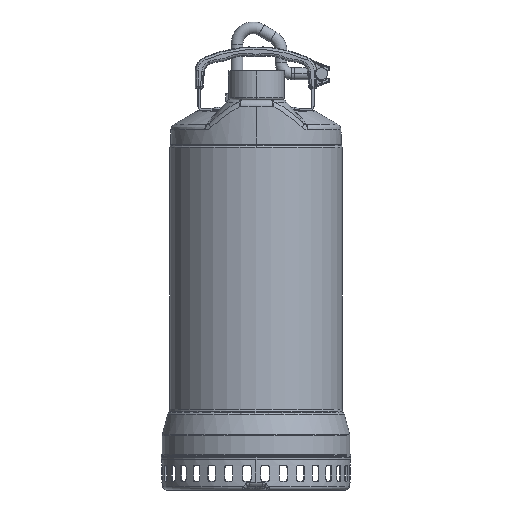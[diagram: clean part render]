
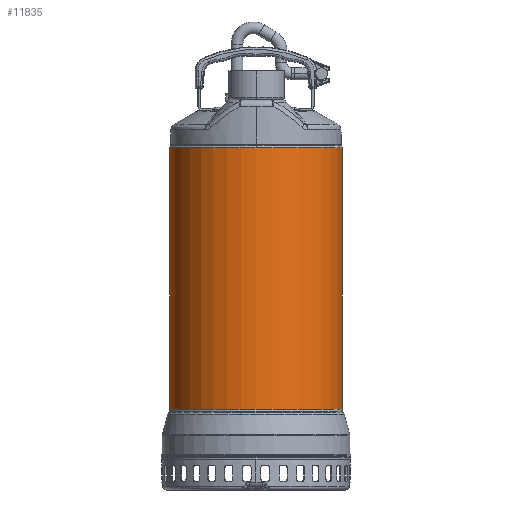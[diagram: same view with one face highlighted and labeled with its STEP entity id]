
A CAD part, front view. The second image highlights one B-rep face of the part: STEP entity #11835.
In plain terms, the highlighted cylindrical face has radius 80.25 mm (diameter 160.5 mm), a partial arc.
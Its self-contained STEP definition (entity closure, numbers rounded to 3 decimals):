
#83 = DIRECTION ( 'NONE',  ( 0., 0., 1. ) ) ;
#169 = VERTEX_POINT ( 'NONE', #38584 ) ;
#1566 = ORIENTED_EDGE ( 'NONE', *, *, #3148, .T. ) ;
#1643 = LINE ( 'NONE', #42679, #42017 ) ;
#1874 = AXIS2_PLACEMENT_3D ( 'NONE', #37753, #10893, #26101 ) ;
#3148 = EDGE_CURVE ( 'NONE', #48521, #42693, #1643, .T. ) ;
#3726 = DIRECTION ( 'NONE',  ( 0., 0., 1. ) ) ;
#4654 = VERTEX_POINT ( 'NONE', #25774 ) ;
#6463 = EDGE_CURVE ( 'NONE', #4654, #169, #21510, .T. ) ;
#8104 = VECTOR ( 'NONE', #3726, 1000. ) ;
#10055 = VERTEX_POINT ( 'NONE', #35988 ) ;
#10272 = AXIS2_PLACEMENT_3D ( 'NONE', #37418, #18707, #26430 ) ;
#10893 = DIRECTION ( 'NONE',  ( 0., 0., 1. ) ) ;
#11835 = ADVANCED_FACE ( 'NONE', ( #37059 ), #27118, .T. ) ;
#12196 = LINE ( 'NONE', #30248, #8104 ) ;
#13019 = AXIS2_PLACEMENT_3D ( 'NONE', #41131, #83, #26225 ) ;
#17380 = DIRECTION ( 'NONE',  ( 0., 0., 1. ) ) ;
#18531 = EDGE_CURVE ( 'NONE', #10055, #48521, #45855, .T. ) ;
#18707 = DIRECTION ( 'NONE',  ( 0., 0., 1. ) ) ;
#21130 = DIRECTION ( 'NONE',  ( -1., 0., 0. ) ) ;
#21325 = ORIENTED_EDGE ( 'NONE', *, *, #40095, .F. ) ;
#21510 = CIRCLE ( 'NONE', #1874, 80.25 ) ;
#21721 = EDGE_LOOP ( 'NONE', ( #33075, #1566, #28754, #26994, #21325 ) ) ;
#21996 = AXIS2_PLACEMENT_3D ( 'NONE', #36246, #17380, #21130 ) ;
#22635 = CARTESIAN_POINT ( 'NONE',  ( 239.79, 148.847, -761.192 ) ) ;
#23984 = DIRECTION ( 'NONE',  ( 0., 0., 1. ) ) ;
#25325 = EDGE_CURVE ( 'NONE', #169, #42693, #40374, .T. ) ;
#25774 = CARTESIAN_POINT ( 'NONE',  ( 79.29, 148.847, -761.192 ) ) ;
#26101 = DIRECTION ( 'NONE',  ( -1., 0., 0. ) ) ;
#26225 = DIRECTION ( 'NONE',  ( -1., 0., 0. ) ) ;
#26430 = DIRECTION ( 'NONE',  ( -1., 0., 0. ) ) ;
#26994 = ORIENTED_EDGE ( 'NONE', *, *, #6463, .F. ) ;
#27118 = CYLINDRICAL_SURFACE ( 'NONE', #21996, 80.25 ) ;
#28754 = ORIENTED_EDGE ( 'NONE', *, *, #25325, .F. ) ;
#30248 = CARTESIAN_POINT ( 'NONE',  ( 79.29, 148.847, -858.781 ) ) ;
#33075 = ORIENTED_EDGE ( 'NONE', *, *, #18531, .T. ) ;
#35948 = CARTESIAN_POINT ( 'NONE',  ( 239.79, 148.847, -1005.026 ) ) ;
#35988 = CARTESIAN_POINT ( 'NONE',  ( 79.29, 148.847, -1005.026 ) ) ;
#36246 = CARTESIAN_POINT ( 'NONE',  ( 159.54, 148.847, -858.781 ) ) ;
#37059 = FACE_OUTER_BOUND ( 'NONE', #21721, .T. ) ;
#37418 = CARTESIAN_POINT ( 'NONE',  ( 159.54, 148.847, -1005.026 ) ) ;
#37753 = CARTESIAN_POINT ( 'NONE',  ( 159.54, 148.847, -761.192 ) ) ;
#38584 = CARTESIAN_POINT ( 'NONE',  ( 159.54, 68.597, -761.192 ) ) ;
#40095 = EDGE_CURVE ( 'NONE', #10055, #4654, #12196, .T. ) ;
#40374 = CIRCLE ( 'NONE', #13019, 80.25 ) ;
#41131 = CARTESIAN_POINT ( 'NONE',  ( 159.54, 148.847, -761.192 ) ) ;
#42017 = VECTOR ( 'NONE', #23984, 1000. ) ;
#42679 = CARTESIAN_POINT ( 'NONE',  ( 239.79, 148.847, -858.781 ) ) ;
#42693 = VERTEX_POINT ( 'NONE', #22635 ) ;
#45855 = CIRCLE ( 'NONE', #10272, 80.25 ) ;
#48521 = VERTEX_POINT ( 'NONE', #35948 ) ;
